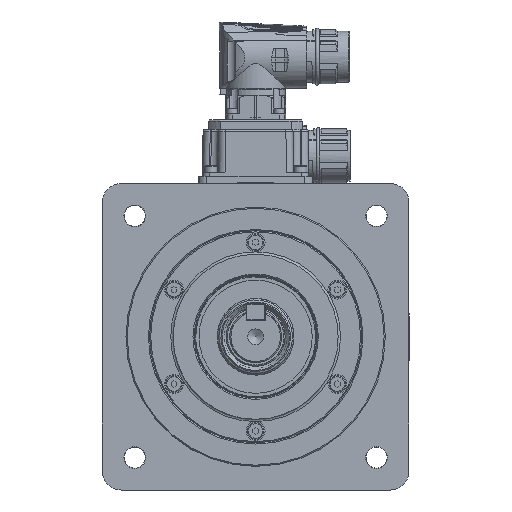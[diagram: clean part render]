
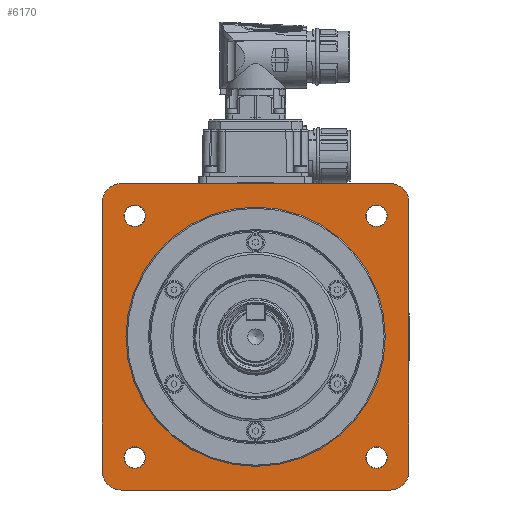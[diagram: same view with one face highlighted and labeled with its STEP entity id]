
A CAD part, front view. The second image highlights one B-rep face of the part: STEP entity #6170.
In plain terms, the highlighted planar face has unit normal (0, -1, 0).
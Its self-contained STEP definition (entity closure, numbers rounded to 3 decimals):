
#6170 = ADVANCED_FACE( '', ( #13745, #13746, #13747, #13748, #13749, #13750 ), #13751, .F. );
#13745 = FACE_BOUND( '', #31734, .T. );
#13746 = FACE_OUTER_BOUND( '', #31735, .T. );
#13747 = FACE_BOUND( '', #31736, .T. );
#13748 = FACE_BOUND( '', #31737, .T. );
#13749 = FACE_BOUND( '', #31738, .T. );
#13750 = FACE_BOUND( '', #31739, .T. );
#13751 = PLANE( '', #31740 );
#31734 = EDGE_LOOP( '', ( #53059 ) );
#31735 = EDGE_LOOP( '', ( #53060, #53061, #53062, #53063, #53064, #53065, #53066, #53067 ) );
#31736 = EDGE_LOOP( '', ( #53068 ) );
#31737 = EDGE_LOOP( '', ( #53069 ) );
#31738 = EDGE_LOOP( '', ( #53070 ) );
#31739 = EDGE_LOOP( '', ( #53071 ) );
#31740 = AXIS2_PLACEMENT_3D( '', #53072, #53073, #53074 );
#53059 = ORIENTED_EDGE( '', *, *, #61960, .F. );
#53060 = ORIENTED_EDGE( '', *, *, #67444, .F. );
#53061 = ORIENTED_EDGE( '', *, *, #60558, .T. );
#53062 = ORIENTED_EDGE( '', *, *, #65464, .F. );
#53063 = ORIENTED_EDGE( '', *, *, #61540, .T. );
#53064 = ORIENTED_EDGE( '', *, *, #65628, .F. );
#53065 = ORIENTED_EDGE( '', *, *, #63343, .T. );
#53066 = ORIENTED_EDGE( '', *, *, #65247, .F. );
#53067 = ORIENTED_EDGE( '', *, *, #67445, .T. );
#53068 = ORIENTED_EDGE( '', *, *, #62178, .F. );
#53069 = ORIENTED_EDGE( '', *, *, #67446, .F. );
#53070 = ORIENTED_EDGE( '', *, *, #67447, .F. );
#53071 = ORIENTED_EDGE( '', *, *, #63887, .F. );
#53072 = CARTESIAN_POINT( '', ( 0., 7.09, 55. ) );
#53073 = DIRECTION( '', ( 0., 1., 0. ) );
#53074 = DIRECTION( '', ( 0., 0., 1. ) );
#60558 = EDGE_CURVE( '', #70238, #70236, #70239, .T. );
#61540 = EDGE_CURVE( '', #71956, #71954, #71957, .T. );
#61960 = EDGE_CURVE( '', #72673, #72673, #72674, .T. );
#62178 = EDGE_CURVE( '', #73039, #73039, #73040, .F. );
#63343 = EDGE_CURVE( '', #74928, #74926, #74929, .T. );
#63887 = EDGE_CURVE( '', #75781, #75781, #75782, .F. );
#65247 = EDGE_CURVE( '', #77790, #74926, #77793, .F. );
#65464 = EDGE_CURVE( '', #71956, #70236, #78101, .F. );
#65628 = EDGE_CURVE( '', #74928, #71954, #78334, .F. );
#67444 = EDGE_CURVE( '', #70238, #80734, #80735, .F. );
#67445 = EDGE_CURVE( '', #77790, #80734, #80736, .T. );
#67446 = EDGE_CURVE( '', #80737, #80737, #80738, .F. );
#67447 = EDGE_CURVE( '', #80739, #80739, #80740, .F. );
#70236 = VERTEX_POINT( '', #85678 );
#70238 = VERTEX_POINT( '', #85681 );
#70239 = LINE( '', #85682, #85683 );
#71954 = VERTEX_POINT( '', #89363 );
#71956 = VERTEX_POINT( '', #89366 );
#71957 = LINE( '', #89367, #89368 );
#72673 = VERTEX_POINT( '', #91084 );
#72674 = CIRCLE( '', #91085, 55. );
#73039 = VERTEX_POINT( '', #91768 );
#73040 = CIRCLE( '', #91769, 4.6 );
#74926 = VERTEX_POINT( '', #95586 );
#74928 = VERTEX_POINT( '', #95589 );
#74929 = LINE( '', #95590, #95591 );
#75781 = VERTEX_POINT( '', #97278 );
#75782 = CIRCLE( '', #97279, 4.6 );
#77790 = VERTEX_POINT( '', #102160 );
#77793 = CIRCLE( '', #102164, 8. );
#78101 = CIRCLE( '', #102807, 8. );
#78334 = CIRCLE( '', #103205, 8. );
#80734 = VERTEX_POINT( '', #108579 );
#80735 = CIRCLE( '', #108580, 8. );
#80736 = LINE( '', #108581, #108582 );
#80737 = VERTEX_POINT( '', #108583 );
#80738 = CIRCLE( '', #108584, 4.6 );
#80739 = VERTEX_POINT( '', #108585 );
#80740 = CIRCLE( '', #108586, 4.6 );
#85678 = CARTESIAN_POINT( '', ( -65., 7.09, -57. ) );
#85681 = CARTESIAN_POINT( '', ( -65., 7.09, 57. ) );
#85682 = CARTESIAN_POINT( '', ( -65., 7.09, 65. ) );
#85683 = VECTOR( '', #113539, 1000. );
#89363 = CARTESIAN_POINT( '', ( 57., 7.09, -65. ) );
#89366 = CARTESIAN_POINT( '', ( -57., 7.09, -65. ) );
#89367 = CARTESIAN_POINT( '', ( -65., 7.09, -65. ) );
#89368 = VECTOR( '', #114734, 1000. );
#91084 = CARTESIAN_POINT( '', ( 0., 7.09, -55. ) );
#91085 = AXIS2_PLACEMENT_3D( '', #115288, #115289, #115290 );
#91768 = CARTESIAN_POINT( '', ( -51.265, 7.09, 55.866 ) );
#91769 = AXIS2_PLACEMENT_3D( '', #115570, #115571, #115572 );
#95586 = CARTESIAN_POINT( '', ( 65., 7.09, 57. ) );
#95589 = CARTESIAN_POINT( '', ( 65., 7.09, -57. ) );
#95590 = CARTESIAN_POINT( '', ( 65., 7.09, -65. ) );
#95591 = VECTOR( '', #116981, 1000. );
#97278 = CARTESIAN_POINT( '', ( 51.265, 7.09, 55.866 ) );
#97279 = AXIS2_PLACEMENT_3D( '', #117624, #117625, #117626 );
#102160 = CARTESIAN_POINT( '', ( 57., 7.09, 65. ) );
#102164 = AXIS2_PLACEMENT_3D( '', #119148, #119149, #119150 );
#102807 = AXIS2_PLACEMENT_3D( '', #119401, #119402, #119403 );
#103205 = AXIS2_PLACEMENT_3D( '', #119612, #119613, #119614 );
#108579 = CARTESIAN_POINT( '', ( -57., 7.09, 65. ) );
#108580 = AXIS2_PLACEMENT_3D( '', #121540, #121541, #121542 );
#108581 = CARTESIAN_POINT( '', ( 65., 7.09, 65. ) );
#108582 = VECTOR( '', #121543, 1000. );
#108583 = CARTESIAN_POINT( '', ( -51.265, 7.09, -46.665 ) );
#108584 = AXIS2_PLACEMENT_3D( '', #121544, #121545, #121546 );
#108585 = CARTESIAN_POINT( '', ( 51.265, 7.09, -46.665 ) );
#108586 = AXIS2_PLACEMENT_3D( '', #121547, #121548, #121549 );
#113539 = DIRECTION( '', ( 0., 0., -1. ) );
#114734 = DIRECTION( '', ( 1., 0., 0. ) );
#115288 = CARTESIAN_POINT( '', ( 0., 7.09, 0. ) );
#115289 = DIRECTION( '', ( 0., -1., 0. ) );
#115290 = DIRECTION( '', ( 0., 0., -1. ) );
#115570 = CARTESIAN_POINT( '', ( -51.265, 7.09, 51.265 ) );
#115571 = DIRECTION( '', ( 0., 1., 0. ) );
#115572 = DIRECTION( '', ( 0., 0., 1. ) );
#116981 = DIRECTION( '', ( 0., 0., 1. ) );
#117624 = CARTESIAN_POINT( '', ( 51.265, 7.09, 51.265 ) );
#117625 = DIRECTION( '', ( 0., 1., 0. ) );
#117626 = DIRECTION( '', ( 0., 0., 1. ) );
#119148 = CARTESIAN_POINT( '', ( 57., 7.09, 57. ) );
#119149 = DIRECTION( '', ( 0., -1., 0. ) );
#119150 = DIRECTION( '', ( 0., 0., -1. ) );
#119401 = CARTESIAN_POINT( '', ( -57., 7.09, -57. ) );
#119402 = DIRECTION( '', ( 0., -1., 0. ) );
#119403 = DIRECTION( '', ( 0., 0., -1. ) );
#119612 = CARTESIAN_POINT( '', ( 57., 7.09, -57. ) );
#119613 = DIRECTION( '', ( 0., -1., 0. ) );
#119614 = DIRECTION( '', ( 0., 0., -1. ) );
#121540 = CARTESIAN_POINT( '', ( -57., 7.09, 57. ) );
#121541 = DIRECTION( '', ( 0., -1., 0. ) );
#121542 = DIRECTION( '', ( 0., 0., -1. ) );
#121543 = DIRECTION( '', ( -1., 0., 0. ) );
#121544 = CARTESIAN_POINT( '', ( -51.265, 7.09, -51.265 ) );
#121545 = DIRECTION( '', ( 0., 1., 0. ) );
#121546 = DIRECTION( '', ( 0., 0., 1. ) );
#121547 = CARTESIAN_POINT( '', ( 51.265, 7.09, -51.265 ) );
#121548 = DIRECTION( '', ( 0., 1., 0. ) );
#121549 = DIRECTION( '', ( 0., 0., 1. ) );
